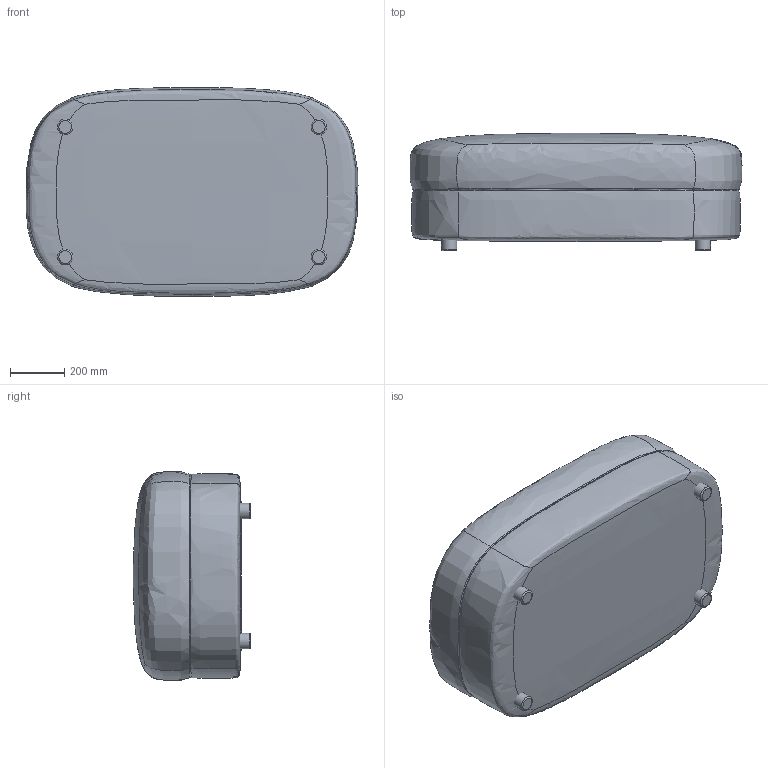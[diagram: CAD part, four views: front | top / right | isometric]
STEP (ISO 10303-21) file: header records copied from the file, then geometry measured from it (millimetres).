
FILE_DESCRIPTION(/* description */ (''),/* implementation_level */ '2;1');
FILE_NAME(/* name */ 'Covent Pouf, Small, 75x120',/* time_stamp */ '2024-07-02T13:28:26+02:00',/* author */ (''),/* organization */ (''),/* preprocessor_version */ 'ST-DEVELOPER v16.5',/* originating_system */ 'Rhino 7.37',/* authorisation */ '');
FILE_SCHEMA (('CONFIG_CONTROL_DESIGN'));
Length unit declared in the file: millimetre
Products named in the file (1): Document
Bounding box: 1220.77 x 432.6 x 766.63 mm (x, y, z)
Volume: 216657067.4 mm3; surface area: 4937340.7 mm2
Topology: 10 solids, 10 shells, 62 faces, 103 edges, 62 vertices
Faces by surface type: bspline 31, plane 19, cylinder 12
Full cylindrical faces by diameter (mm): 57 x4
Entity records: 21574 total; most frequent: CARTESIAN_POINT 20766, ORIENTED_EDGE 206, EDGE_CURVE 103, EDGE_LOOP 63, ADVANCED_FACE 62, FACE_OUTER_BOUND 62, VERTEX_POINT 62, B_SPLINE_CURVE_WITH_KNOTS 35
